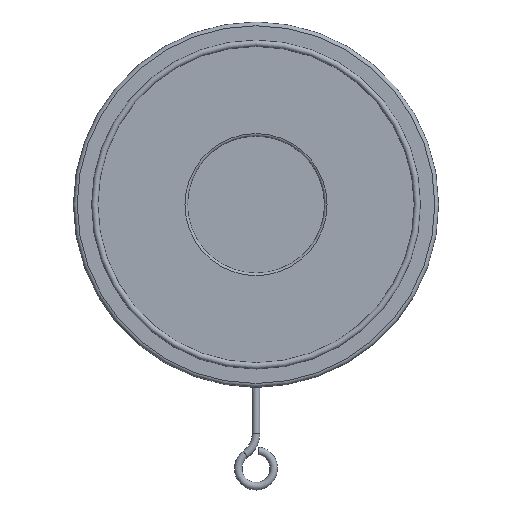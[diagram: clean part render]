
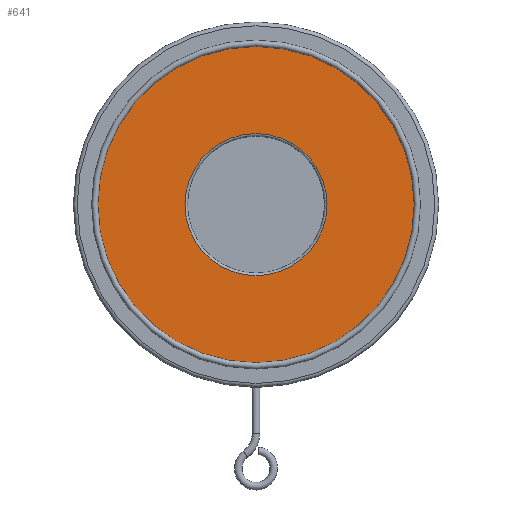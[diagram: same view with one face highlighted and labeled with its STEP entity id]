
A CAD part, top view. The second image highlights one B-rep face of the part: STEP entity #641.
In plain terms, the highlighted planar face has unit normal (0, 0, 1).
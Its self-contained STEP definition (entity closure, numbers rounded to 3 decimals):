
#641 = ADVANCED_FACE( '', ( #1348, #1349 ), #1350, .F. );
#1348 = FACE_BOUND( '', #2111, .T. );
#1349 = FACE_OUTER_BOUND( '', #2112, .T. );
#1350 = PLANE( '', #2113 );
#2111 = EDGE_LOOP( '', ( #4506 ) );
#2112 = EDGE_LOOP( '', ( #4507 ) );
#2113 = AXIS2_PLACEMENT_3D( '', #4508, #4509, #4510 );
#4506 = ORIENTED_EDGE( '', *, *, #5270, .T. );
#4507 = ORIENTED_EDGE( '', *, *, #5061, .T. );
#4508 = CARTESIAN_POINT( '', ( 0., 0., 7. ) );
#4509 = DIRECTION( '', ( 0., 0., -1. ) );
#4510 = DIRECTION( '', ( -1., 0., 0. ) );
#5061 = EDGE_CURVE( '', #6026, #6026, #6027, .T. );
#5270 = EDGE_CURVE( '', #6287, #6287, #6288, .T. );
#6026 = VERTEX_POINT( '', #8626 );
#6027 = CIRCLE( '', #8627, 62.375 );
#6287 = VERTEX_POINT( '', #9255 );
#6288 = CIRCLE( '', #9256, 28. );
#8626 = CARTESIAN_POINT( '', ( 62.375, 0., 7. ) );
#8627 = AXIS2_PLACEMENT_3D( '', #9572, #9573, #9574 );
#9255 = CARTESIAN_POINT( '', ( -28., 0., 7. ) );
#9256 = AXIS2_PLACEMENT_3D( '', #9659, #9660, #9661 );
#9572 = CARTESIAN_POINT( '', ( 0., 0., 7. ) );
#9573 = DIRECTION( '', ( 0., 0., 1. ) );
#9574 = DIRECTION( '', ( 1., 0., 0. ) );
#9659 = CARTESIAN_POINT( '', ( 0., 0., 7. ) );
#9660 = DIRECTION( '', ( 0., 0., -1. ) );
#9661 = DIRECTION( '', ( -1., 0., 0. ) );
